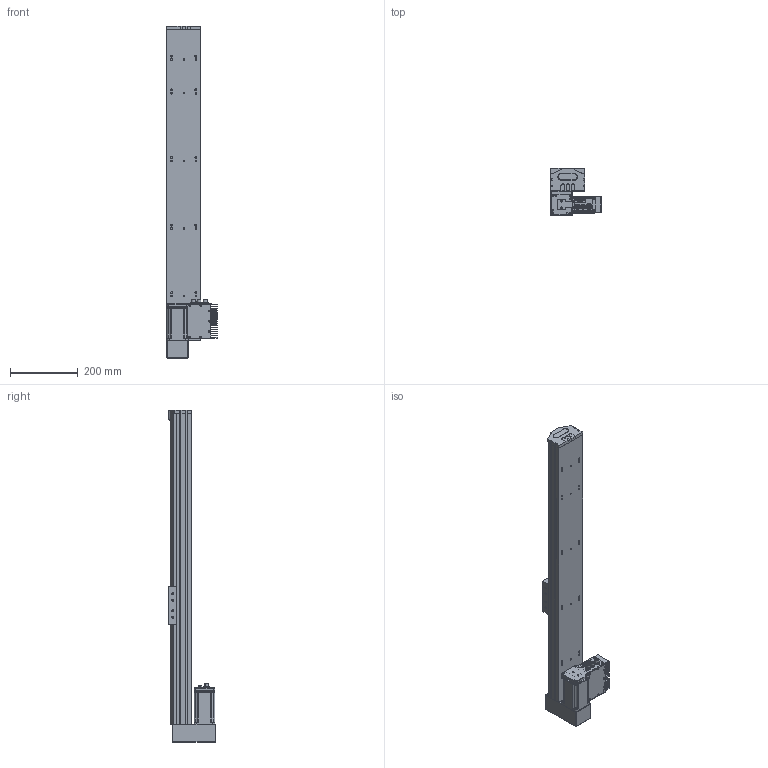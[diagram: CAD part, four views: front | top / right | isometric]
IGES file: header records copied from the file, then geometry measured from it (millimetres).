
Start section: SolidWorks IGES file using analytic representation for surfaces
Global section: file name: C:\Documents and Settings\1EDPI\Mes documents\yanize\S 10 TSH BM\S 10 TSH BM S700.IGS; native system: SolidWorks 2010; preprocessor: SolidWorks 2010; author: 1EDPI; date: 120907.134524; units: millimetre
Bounding box: 149.38 x 138.75 x 982 mm (x, y, z)
Surface area: 751616.1 mm2 (no closed solid volume)
Topology: 0 solids, 0 shells, 1993 faces, 26980 edges, 26948 vertices
Faces by surface type: revolution 1061, bspline 932
